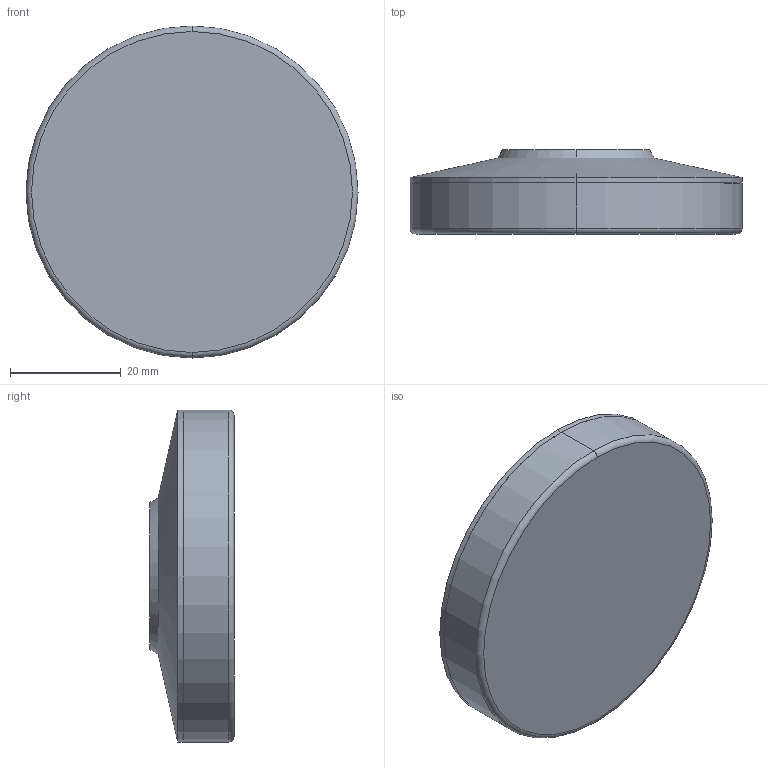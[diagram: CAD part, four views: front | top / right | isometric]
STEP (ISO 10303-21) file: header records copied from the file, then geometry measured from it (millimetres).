
FILE_DESCRIPTION (( 'STEP AP214' ), '1' );
FILE_NAME ('6311.3-60-13,5-G.step', '2023-04-17T05:34:29', ( '' ), ( '' ), 'SwSTEP 2.0', 'SolidWorks 2022', '' );
FILE_SCHEMA (( 'AUTOMOTIVE_DESIGN' ));
Length unit declared in the file: millimetre
Products named in the file (1): 6311.3-60-13,5-G
Bounding box: 60 x 15.2 x 60 mm (x, y, z)
Volume: 33901.5 mm3; surface area: 9083.1 mm2
Topology: 1 solids, 1 shells, 36 faces, 79 edges, 50 vertices
Faces by surface type: cylinder 16, plane 8, torus 6, cone 4, sphere 2
Entity records: 1150 total; most frequent: CARTESIAN_POINT 202, DIRECTION 201, ORIENTED_EDGE 158, AXIS2_PLACEMENT_3D 89, EDGE_CURVE 79, CIRCLE 52, VERTEX_POINT 50, EDGE_LOOP 41
